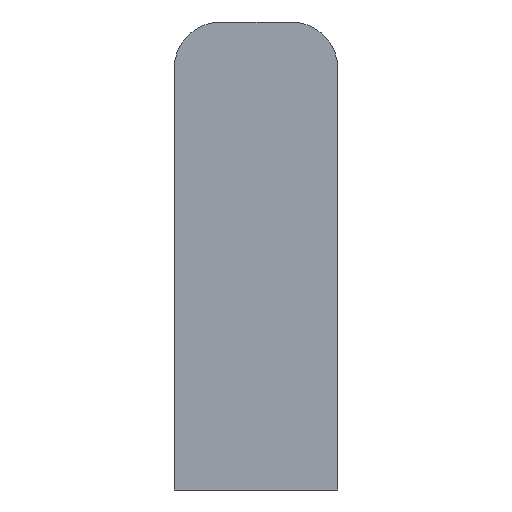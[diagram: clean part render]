
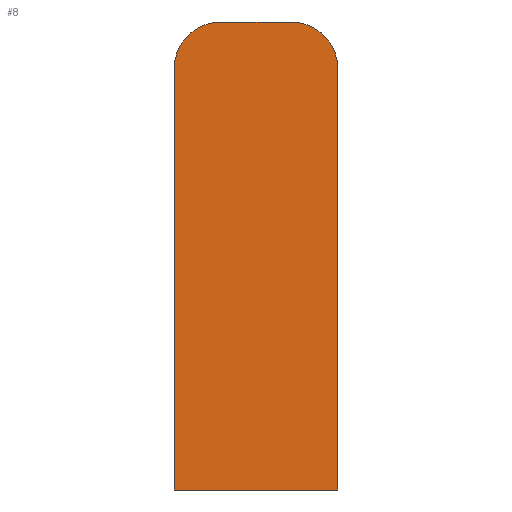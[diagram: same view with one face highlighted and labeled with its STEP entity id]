
A CAD part, front view. The second image highlights one B-rep face of the part: STEP entity #8.
In plain terms, the highlighted planar face has unit normal (0, -1, 0).
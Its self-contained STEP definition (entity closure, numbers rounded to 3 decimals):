
#8 = ADVANCED_FACE ( 'NONE', ( #115 ), #187, .F. ) ;
#21 = EDGE_CURVE ( 'NONE', #230, #163, #63, .T. ) ;
#24 = AXIS2_PLACEMENT_3D ( 'NONE', #190, #195, #196 ) ;
#31 = EDGE_CURVE ( 'NONE', #154, #239, #103, .T. ) ;
#33 = EDGE_CURVE ( 'NONE', #164, #154, #107, .T. ) ;
#38 = EDGE_CURVE ( 'NONE', #163, #164, #106, .T. ) ;
#40 = AXIS2_PLACEMENT_3D ( 'NONE', #211, #215, #216 ) ;
#45 = EDGE_CURVE ( 'NONE', #168, #230, #147, .T. ) ;
#48 = AXIS2_PLACEMENT_3D ( 'NONE', #236, #232, #245 ) ;
#52 = EDGE_CURVE ( 'NONE', #239, #168, #136, .T. ) ;
#63 = LINE ( 'NONE', #197, #119 ) ;
#66 = ORIENTED_EDGE ( 'NONE', *, *, #52, .T. ) ;
#67 = EDGE_LOOP ( 'NONE', ( #88, #89, #96, #66, #86, #87 ) ) ;
#86 = ORIENTED_EDGE ( 'NONE', *, *, #45, .T. ) ;
#87 = ORIENTED_EDGE ( 'NONE', *, *, #21, .T. ) ;
#88 = ORIENTED_EDGE ( 'NONE', *, *, #38, .T. ) ;
#89 = ORIENTED_EDGE ( 'NONE', *, *, #33, .T. ) ;
#96 = ORIENTED_EDGE ( 'NONE', *, *, #31, .T. ) ;
#103 = LINE ( 'NONE', #213, #104 ) ;
#104 = VECTOR ( 'NONE', #214, 1000. ) ;
#106 = LINE ( 'NONE', #223, #110 ) ;
#107 = CIRCLE ( 'NONE', #40, 3. ) ;
#110 = VECTOR ( 'NONE', #228, 1000. ) ;
#115 = FACE_OUTER_BOUND ( 'NONE', #67, .T. ) ;
#119 = VECTOR ( 'NONE', #204, 1000. ) ;
#136 = CIRCLE ( 'NONE', #48, 3. ) ;
#142 = VECTOR ( 'NONE', #244, 1000. ) ;
#147 = LINE ( 'NONE', #217, #142 ) ;
#154 = VERTEX_POINT ( 'NONE', #237 ) ;
#163 = VERTEX_POINT ( 'NONE', #249 ) ;
#164 = VERTEX_POINT ( 'NONE', #229 ) ;
#168 = VERTEX_POINT ( 'NONE', #234 ) ;
#187 = PLANE ( 'NONE',  #24 ) ;
#190 = CARTESIAN_POINT ( 'NONE',  ( 0., 0., -1.5 ) ) ;
#195 = DIRECTION ( 'NONE',  ( 0., 1., 0. ) ) ;
#196 = DIRECTION ( 'NONE',  ( -1., 0., 0. ) ) ;
#197 = CARTESIAN_POINT ( 'NONE',  ( 5.25, 0., -16.5 ) ) ;
#204 = DIRECTION ( 'NONE',  ( 1., 0., 0. ) ) ;
#211 = CARTESIAN_POINT ( 'NONE',  ( 2.25, 0., 10.5 ) ) ;
#213 = CARTESIAN_POINT ( 'NONE',  ( 2.25, 0., 13.5 ) ) ;
#214 = DIRECTION ( 'NONE',  ( -1., 0., 0. ) ) ;
#215 = DIRECTION ( 'NONE',  ( 0., -1., 0. ) ) ;
#216 = DIRECTION ( 'NONE',  ( -1., 0., 0. ) ) ;
#217 = CARTESIAN_POINT ( 'NONE',  ( -5.25, 0., -16.5 ) ) ;
#223 = CARTESIAN_POINT ( 'NONE',  ( 5.25, 0., -16.5 ) ) ;
#228 = DIRECTION ( 'NONE',  ( 0., 0., 1. ) ) ;
#229 = CARTESIAN_POINT ( 'NONE',  ( 5.25, 0., 10.5 ) ) ;
#230 = VERTEX_POINT ( 'NONE', #252 ) ;
#232 = DIRECTION ( 'NONE',  ( 0., -1., 0. ) ) ;
#234 = CARTESIAN_POINT ( 'NONE',  ( -5.25, 0., 10.5 ) ) ;
#236 = CARTESIAN_POINT ( 'NONE',  ( -2.25, 0., 10.5 ) ) ;
#237 = CARTESIAN_POINT ( 'NONE',  ( 2.25, 0., 13.5 ) ) ;
#239 = VERTEX_POINT ( 'NONE', #254 ) ;
#244 = DIRECTION ( 'NONE',  ( 0., 0., -1. ) ) ;
#245 = DIRECTION ( 'NONE',  ( -1., 0., 0. ) ) ;
#249 = CARTESIAN_POINT ( 'NONE',  ( 5.25, 0., -16.5 ) ) ;
#252 = CARTESIAN_POINT ( 'NONE',  ( -5.25, 0., -16.5 ) ) ;
#254 = CARTESIAN_POINT ( 'NONE',  ( -2.25, 0., 13.5 ) ) ;
